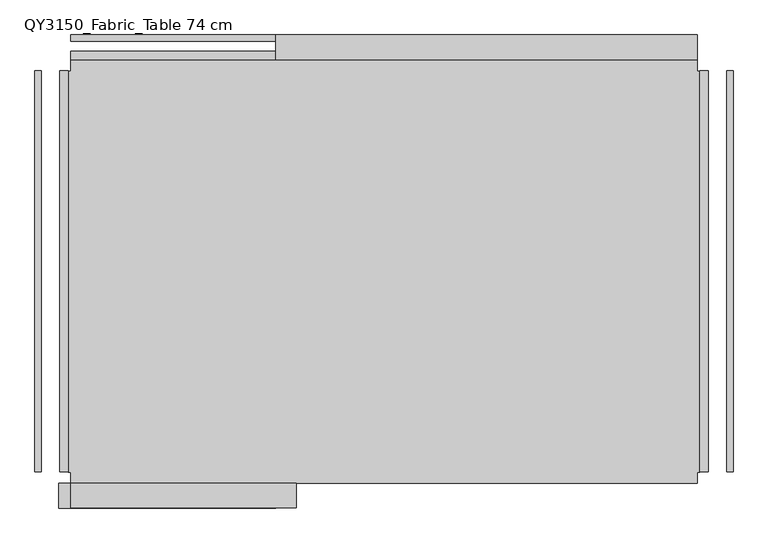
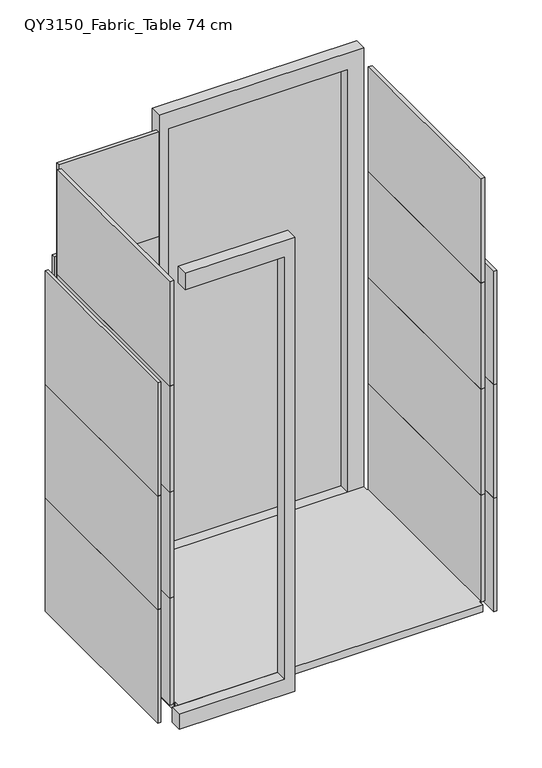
"""IFC4 building model written with IfcOpenShell, lengths in millimetres: furniture geometry, Qyos_150 : QY3150_Fabric_Table 74 cm."""

from ifc_helpers import new_model, si_unit, frame, origin, place, context, project, spatial, polyline, outline, extrude, source, transform, mapped, element, save


def qy3150_fabric_table_74_cm_05d11f60(model_context):
    return source(origin(), model_context, "Body", "SweptSolid", [
        extrude(outline(polyline([(2122.1, -239.9562864), (82.0, -239.9562864), (82.0, -722.5536246), (10.0, -722.5536246), (10.0, -194.9250972), (2202.1, -194.9250972), (2202.1, -695.0), (2122.1, -695.0), (2122.1, -239.9562864)])), frame((0.0, -525.0, 0.0), z_axis=(0.0, 1.0, 0.0), x_axis=(0.0, 0.0, 1.0)), (0.0, 0.0, 1.0), 55.0043181),
        extrude(outline(polyline([(-701.0, 445.0), (-695.0, 445.0), (-695.0, 470.0), (695.0, 470.0), (695.0, 445.0), (701.0, 445.0), (701.0, -445.0), (695.0, -445.0), (695.0, -469.9956819), (-695.0, -469.9956819), (-695.0, -445.0), (-701.0, -445.0), (-701.0, 445.0)])), frame((0.0, 0.0, 47.0), z_axis=(0.0, 0.0, 1.0), x_axis=(1.0, 0.0, 0.0)), (0.0, 0.0, 1.0), 35.0),
        extrude(outline(polyline([(619.5, 520.0), (-195.7844354, 520.0), (-195.7844354, 525.0), (619.5, 525.0), (619.5, 520.0)])), frame((0.0, 0.0, 82.0), z_axis=(0.0, 0.0, 1.0), x_axis=(1.0, 0.0, 0.0)), (0.0, 0.0, 1.0), 2040.1),
        extrude(outline(polyline([(10.0, -239.9562864), (10.0, 695.0), (2202.1, 695.0), (2202.1, -239.9562864), (10.0, -239.9562864)]), holes=[polyline([(82.0, 619.5), (82.0, -194.9250972), (2122.1, -194.9250972), (2122.1, 619.5), (82.0, 619.5)])]), frame((0.0, 470.0, 0.0), z_axis=(0.0, 1.0, 0.0), x_axis=(0.0, 0.0, 1.0)), (0.0, 0.0, 1.0), 55.0),
        extrude(outline(polyline([(720.0, -444.9498873), (701.0, -444.9498873), (701.0, 445.0024364), (720.0, 445.0024364), (720.0, -444.9498873)])), frame((0.0, 0.0, 1617.9823403), z_axis=(0.0, 0.0, 1.0), x_axis=(1.0, 0.0, 0.0)), (0.0, 0.0, 1.0), 504.1176597),
        extrude(outline(polyline([(-720.0, -445.0), (-720.0, 445.0), (-701.0, 445.0), (-701.0, -445.0), (-720.0, -445.0)])), frame((0.0, 0.0, 1617.9823403), z_axis=(0.0, 0.0, 1.0), x_axis=(1.0, 0.0, 0.0)), (0.0, 0.0, 1.0), 504.1176597),
        extrude(outline(polyline([(-695.0, 470.0), (-695.0, 489.0), (-239.9562864, 489.0), (-239.9562864, 470.0), (-695.0, 470.0)])), frame((0.0, 0.0, 1617.9823403), z_axis=(0.0, 0.0, 1.0), x_axis=(1.0, 0.0, 0.0)), (0.0, 0.0, 1.0), 504.1176597),
        extrude(outline(polyline([(720.0, -445.0), (701.0, -445.0), (701.0, 445.0), (720.0, 445.0), (720.0, -445.0)])), frame((0.0, 0.0, 1106.0116287), z_axis=(0.0, 0.0, 1.0), x_axis=(1.0, 0.0, 0.0)), (0.0, 0.0, 1.0), 511.9707116),
        extrude(outline(polyline([(-720.0, -445.0), (-720.0, 445.0), (-701.0, 445.0), (-701.0, -445.0), (-720.0, -445.0)])), frame((0.0, 0.0, 1106.0116287), z_axis=(0.0, 0.0, 1.0), x_axis=(1.0, 0.0, 0.0)), (0.0, 0.0, 1.0), 511.9707116),
        extrude(outline(polyline([(-695.0, 470.0), (-695.0, 489.0), (-239.9562864, 489.0), (-239.9562864, 470.0), (-695.0, 470.0)])), frame((0.0, 0.0, 1106.0116287), z_axis=(0.0, 0.0, 1.0), x_axis=(1.0, 0.0, 0.0)), (0.0, 0.0, 1.0), 511.9707116),
        extrude(outline(polyline([(720.0, -445.0), (701.0, -445.0), (701.0, 445.0), (720.0, 445.0), (720.0, -445.0)])), frame((0.0, 0.0, 593.9823403), z_axis=(0.0, 0.0, 1.0), x_axis=(1.0, 0.0, 0.0)), (0.0, 0.0, 1.0), 512.0292884),
        extrude(outline(polyline([(-720.0, -445.0), (-720.0, 445.0), (-701.0, 445.0), (-701.0, -445.0), (-720.0, -445.0)])), frame((0.0, 0.0, 593.9823403), z_axis=(0.0, 0.0, 1.0), x_axis=(1.0, 0.0, 0.0)), (0.0, 0.0, 1.0), 512.0292884),
        extrude(outline(polyline([(-695.0, 470.0), (-695.0, 489.0), (-239.9562864, 489.0), (-239.9562864, 470.0), (-695.0, 470.0)])), frame((0.0, 0.0, 593.9823403), z_axis=(0.0, 0.0, 1.0), x_axis=(1.0, 0.0, 0.0)), (0.0, 0.0, 1.0), 512.0292884),
        extrude(outline(polyline([(720.0, -445.0), (701.0, -445.0), (701.0, 445.0), (720.0, 445.0), (720.0, -445.0)])), frame((0.0, 0.0, 77.0), z_axis=(0.0, 0.0, 1.0), x_axis=(1.0, 0.0, 0.0)), (0.0, 0.0, 1.0), 516.9823403),
        extrude(outline(polyline([(-720.0, -445.0), (-720.0, 445.0), (-701.0, 445.0), (-701.0, -445.0), (-720.0, -445.0)])), frame((0.0, 0.0, 77.0), z_axis=(0.0, 0.0, 1.0), x_axis=(1.0, 0.0, 0.0)), (0.0, 0.0, 1.0), 516.9823403),
        extrude(outline(polyline([(-695.0, 470.0), (-695.0, 489.0), (-239.9562864, 489.0), (-239.9562864, 470.0), (-695.0, 470.0)])), frame((0.0, 0.0, 77.0), z_axis=(0.0, 0.0, 1.0), x_axis=(1.0, 0.0, 0.0)), (0.0, 0.0, 1.0), 516.9823403),
        extrude(outline(polyline([(-775.0, -445.0), (-775.0, 445.0), (-761.0, 445.0), (-761.0, -445.0), (-775.0, -445.0)])), frame((0.0, 0.0, 1106.0116287), z_axis=(0.0, 0.0, 1.0), x_axis=(1.0, 0.0, 0.0)), (0.0, 0.0, 1.0), 548.0),
        extrude(outline(polyline([(775.0, -445.0), (761.0, -445.0), (761.0, 445.0), (775.0, 445.0), (775.0, -445.0)])), frame((0.0, 0.0, 1106.0116287), z_axis=(0.0, 0.0, 1.0), x_axis=(1.0, 0.0, 0.0)), (0.0, 0.0, 1.0), 548.0),
        extrude(outline(polyline([(-239.9562864, 525.0), (-239.9562864, 511.0), (-695.0, 511.0), (-695.0, 525.0), (-239.9562864, 525.0)])), frame((0.0, 0.0, 1106.0116287), z_axis=(0.0, 0.0, 1.0), x_axis=(1.0, 0.0, 0.0)), (0.0, 0.0, 1.0), 548.0),
        extrude(outline(polyline([(-775.0, -445.0), (-775.0, 445.0), (-761.0, 445.0), (-761.0, -445.0), (-775.0, -445.0)])), frame((0.0, 0.0, 558.0116287), z_axis=(0.0, 0.0, 1.0), x_axis=(1.0, 0.0, 0.0)), (0.0, 0.0, 1.0), 548.0),
        extrude(outline(polyline([(775.0, -445.0), (761.0, -445.0), (761.0, 445.0), (775.0, 445.0), (775.0, -445.0)])), frame((0.0, 0.0, 558.0116287), z_axis=(0.0, 0.0, 1.0), x_axis=(1.0, 0.0, 0.0)), (0.0, 0.0, 1.0), 548.0),
        extrude(outline(polyline([(-239.9562864, 525.0), (-239.9562864, 511.0), (-695.0, 511.0), (-695.0, 525.0), (-239.9562864, 525.0)])), frame((0.0, 0.0, 558.0116287), z_axis=(0.0, 0.0, 1.0), x_axis=(1.0, 0.0, 0.0)), (0.0, 0.0, 1.0), 548.0),
        extrude(outline(polyline([(-775.0, -445.0), (-775.0, 445.0), (-761.0, 445.0), (-761.0, -445.0), (-775.0, -445.0)])), frame((0.0, 0.0, 10.0), z_axis=(0.0, 0.0, 1.0), x_axis=(1.0, 0.0, 0.0)), (0.0, 0.0, 1.0), 548.0116287),
        extrude(outline(polyline([(775.0, -445.0), (761.0, -445.0), (761.0, 445.0), (775.0, 445.0), (775.0, -445.0)])), frame((0.0, 0.0, 10.0), z_axis=(0.0, 0.0, 1.0), x_axis=(1.0, 0.0, 0.0)), (0.0, 0.0, 1.0), 548.0116287),
        extrude(outline(polyline([(-239.9562864, 525.0), (-239.9562864, 511.0), (-695.0, 511.0), (-695.0, 525.0), (-239.9562864, 525.0)])), frame((0.0, 0.0, 10.0), z_axis=(0.0, 0.0, 1.0), x_axis=(1.0, 0.0, 0.0)), (0.0, 0.0, 1.0), 548.0116287),
    ])


if __name__ == "__main__":
    model = new_model("IFC4")
    model_context = context("Model", 3, world=origin())
    ifc_project = project(units=[si_unit("LENGTHUNIT", "METRE", prefix="MILLI")], contexts=[model_context])
    site = spatial("IfcSite", under=ifc_project)
    building = spatial("IfcBuilding", under=site)
    placement = place(None, origin())
    qy3150_fabric_table_74_cm_shape = qy3150_fabric_table_74_cm_05d11f60(model_context)
    element("IfcFurniture", 1, ObjectType="Qyos_150 : QY3150_Fabric_Table 74 cm", at=placement, inside=building, context=model_context, shape_type="MappedRepresentation", body=[
        mapped(qy3150_fabric_table_74_cm_shape, transform((0.0, 0.0, 0.0), x_axis=(1.0, 0.0, 0.0), y_axis=(0.0, 1.0, 0.0), z_axis=(0.0, 0.0, 1.0))),
    ])
    save(model, "model.ifc")
